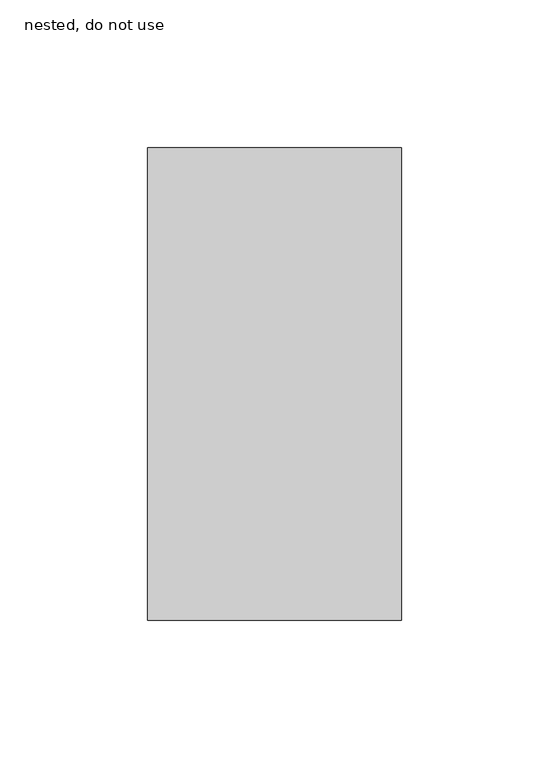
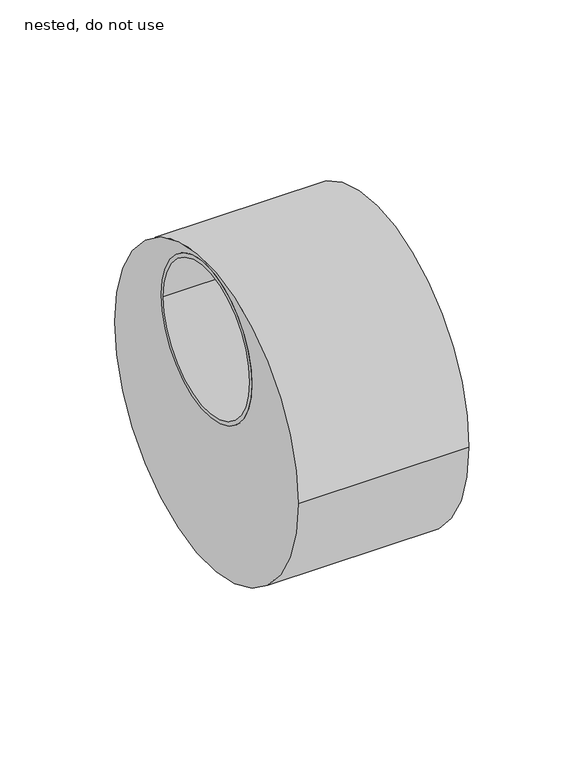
"""IFC4 building model written with IfcOpenShell, lengths in millimetres: pipe fitting geometry, NLRS_52_PIF_UN_Vacurain Flex verloop LV_SH_Dyka : nested, do not use."""

from ifc_helpers import new_model, si_unit, point, frame, frame_2d, origin, place, context, project, spatial, polyline, circle_curve, trimmed, segment, composite_curve, outline, extrude, source, transform, mapped, element, save
from ifc_brep_helpers import plane_surface, cylinder_surface, revolved_surface, advanced_brep


def nested_do_not_use_a5b8c739(model_context):
    return source(origin(), model_context, "Body", "SolidModel", [
        extrude(outline(composite_curve([segment(trimmed(circle_curve(frame_2d((0.0, 39.0)), 39.5), [point((-39.5, 39.0))], [point((39.5, 39.0))], False, "CARTESIAN"), True, "CONTINUOUS"), segment(trimmed(circle_curve(frame_2d((0.0, 39.0)), 39.5), [point((39.5, 39.0))], [point((-39.5, 39.0))], False, "CARTESIAN"), True, "CONTINUOUS")], self_intersect=False), holes=[composite_curve([segment(trimmed(circle_curve(frame_2d((0.0, 39.0)), 37.5), [point((-37.5, 39.0))], [point((37.5, 39.0))], True, "CARTESIAN"), True, "CONTINUOUS"), segment(trimmed(circle_curve(frame_2d((0.0, 39.0)), 37.5), [point((37.5, 39.0))], [point((-37.5, 39.0))], True, "CARTESIAN"), True, "CONTINUOUS")], self_intersect=False)]), frame((-71.0, 0.0, 0.0), z_axis=(1.0, 0.0, 0.0), x_axis=(0.0, 1.0, 0.0)), (0.0, 0.0, 1.0), 44.0),
        advanced_brep(
        [(-71.0, -80.0, 0.0), (-71.0, 80.0, 0.0), (-71.0, -37.5, 39.0), (-71.0, 37.5, 39.0), (15.0, -80.0, 0.0), (15.0, 80.0, 0.0), (-27.0, -37.5, 39.0), (-27.0, 37.5, 39.0)],
        [
            (0, 1, circle_curve(frame((-71.0, 0.0, 0.0), z_axis=(-1.0, 0.0, 0.0), x_axis=(0.0, 1.0, 0.0)), 80.0)),
            (1, 0, circle_curve(frame((-71.0, 0.0, 0.0), z_axis=(-1.0, 0.0, 0.0), x_axis=(0.0, 1.0, 0.0)), 80.0)),
            (2, 3, circle_curve(frame((-71.0, 0.0, 39.0), z_axis=(1.0, 0.0, 0.0), x_axis=(0.0, 1.0, 0.0)), 37.5)),
            (3, 2, circle_curve(frame((-71.0, 0.0, 39.0), z_axis=(1.0, 0.0, 0.0), x_axis=(0.0, 1.0, 0.0)), 37.5)),
            (4, 5, circle_curve(frame((15.0, 0.0, 0.0), z_axis=(1.0, 0.0, 0.0), x_axis=(0.0, 1.0, 0.0)), 80.0)),
            (5, 4, circle_curve(frame((15.0, 0.0, 0.0), z_axis=(1.0, 0.0, 0.0), x_axis=(0.0, 1.0, 0.0)), 80.0)),
            (1, 5),
            (4, 0),
            (6, 7, circle_curve(frame((-27.0, 0.0, 39.0), z_axis=(-1.0, 0.0, 0.0), x_axis=(0.0, 1.0, 0.0)), 37.5)),
            (7, 6, circle_curve(frame((-27.0, 0.0, 39.0), z_axis=(-1.0, 0.0, 0.0), x_axis=(0.0, 1.0, 0.0)), 37.5)),
            (7, 3),
            (2, 6),
        ],
        [
            plane_surface(frame((-71.0, 80.0, 0.0), z_axis=(-1.0, 0.0, 0.0), x_axis=(0.0, 0.0, -1.0))),
            plane_surface(frame((15.0, 80.0, 0.0), z_axis=(1.0, 0.0, 0.0), x_axis=(0.0, 0.0, 1.0))),
            cylinder_surface(frame((-71.0, 0.0, 0.0), z_axis=(1.0, 0.0, 0.0), x_axis=(0.0, 1.0, 0.0)), 80.0),
            plane_surface(frame((-27.0, 37.5, 39.0), z_axis=(-1.0, 0.0, 0.0), x_axis=(0.0, 0.0, 1.0))),
            revolved_surface(polyline([(-27.0, 37.5, 39.0), (-71.0, 37.5, 39.0)]), (-71.0, 0.0, 39.0), (1.0, 0.0, 0.0)),
        ],
        [
            (0, [[1, 2], [3, 4]]),
            (1, [[5, 6]]),
            (2, [[-2, 7, -5, 8]]),
            (2, [[-1, -8, -6, -7]]),
            (3, [[9, 10]]),
            (4, [[-10, 11, -3, 12]]),
            (4, [[-9, -12, -4, -11]]),
        ],
    ),
    ])


if __name__ == "__main__":
    model = new_model("IFC4")
    model_context = context("Model", 3, world=origin())
    ifc_project = project(units=[si_unit("LENGTHUNIT", "METRE", prefix="MILLI")], contexts=[model_context])
    site = spatial("IfcSite", under=ifc_project)
    building = spatial("IfcBuilding", under=site)
    placement = place(None, origin())
    nested_do_not_use_shape = nested_do_not_use_a5b8c739(model_context)
    element("IfcPipeFitting", 1, ObjectType="NLRS_52_PIF_UN_Vacurain Flex verloop LV_SH_Dyka : nested, do not use", at=placement, inside=building, context=model_context, shape_type="MappedRepresentation", body=[
        mapped(nested_do_not_use_shape, transform((0.0, 0.0, 0.0), x_axis=(1.0, 0.0, 0.0), y_axis=(0.0, 1.0, 0.0), z_axis=(0.0, 0.0, 1.0))),
    ])
    save(model, "model.ifc")
